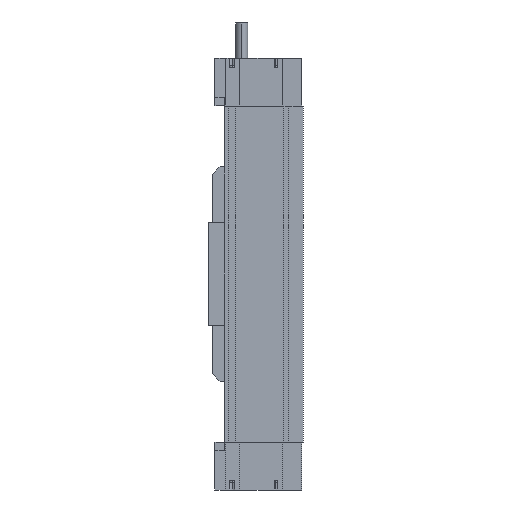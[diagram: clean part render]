
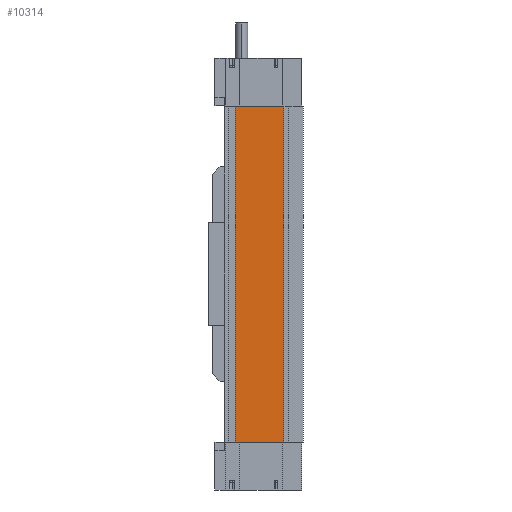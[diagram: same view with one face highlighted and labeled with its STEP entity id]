
A CAD part, left-side view. The second image highlights one B-rep face of the part: STEP entity #10314.
In plain terms, the highlighted planar face has unit normal (-1, 0, 0).
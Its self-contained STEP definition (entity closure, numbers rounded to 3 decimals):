
#1588 = DIRECTION ( 'NONE',  ( 0., -1., 0. ) ) ;
#1589 = VECTOR ( 'NONE', #1588, 1000. ) ;
#1590 = CARTESIAN_POINT ( 'NONE',  ( -32.5, -16.45, 280. ) ) ;
#1598 = CARTESIAN_POINT ( 'NONE',  ( -32.5, 24.15, 280. ) ) ;
#1601 = CARTESIAN_POINT ( 'NONE',  ( -32.5, -16.45, 280. ) ) ;
#1604 = LINE ( 'NONE', #1590, #1589 ) ;
#3732 = CARTESIAN_POINT ( 'NONE',  ( -32.5, -16.45, 0. ) ) ;
#3741 = CARTESIAN_POINT ( 'NONE',  ( -32.5, 24.15, 0. ) ) ;
#3765 = DIRECTION ( 'NONE',  ( 0., -1., 0. ) ) ;
#3766 = VECTOR ( 'NONE', #3765, 1000. ) ;
#3767 = CARTESIAN_POINT ( 'NONE',  ( -32.5, -16.45, 0. ) ) ;
#3769 = LINE ( 'NONE', #3767, #3766 ) ;
#4423 = DIRECTION ( 'NONE',  ( 0., 0., -1. ) ) ;
#4424 = VECTOR ( 'NONE', #4423, 1000. ) ;
#4429 = CARTESIAN_POINT ( 'NONE',  ( -32.5, -16.45, 280. ) ) ;
#4430 = LINE ( 'NONE', #4429, #4424 ) ;
#5256 = FACE_OUTER_BOUND ( 'NONE', #10269, .T. ) ;
#5268 = CARTESIAN_POINT ( 'NONE',  ( -32.5, -16.45, 280. ) ) ;
#5269 = DIRECTION ( 'NONE',  ( 0., 0., -1. ) ) ;
#5270 = VECTOR ( 'NONE', #5269, 1000. ) ;
#5273 = CARTESIAN_POINT ( 'NONE',  ( -32.5, 24.15, 280. ) ) ;
#5274 = LINE ( 'NONE', #5273, #5270 ) ;
#5293 = DIRECTION ( 'NONE',  ( 0., 0., -1. ) ) ;
#5294 = DIRECTION ( 'NONE',  ( 1., 0., 0. ) ) ;
#5297 = PLANE ( 'NONE',  #5305 ) ;
#5305 = AXIS2_PLACEMENT_3D ( 'NONE', #5268, #5294, #5293 ) ;
#8207 = VERTEX_POINT ( 'NONE', #1601 ) ;
#8208 = EDGE_CURVE ( 'NONE', #8216, #8207, #1604, .T. ) ;
#8216 = VERTEX_POINT ( 'NONE', #1598 ) ;
#9403 = VERTEX_POINT ( 'NONE', #3741 ) ;
#9408 = EDGE_CURVE ( 'NONE', #9403, #9411, #3769, .T. ) ;
#9411 = VERTEX_POINT ( 'NONE', #3732 ) ;
#9759 = EDGE_CURVE ( 'NONE', #8207, #9411, #4430, .T. ) ;
#9765 = ORIENTED_EDGE ( 'NONE', *, *, #9408, .T. ) ;
#10268 = ORIENTED_EDGE ( 'NONE', *, *, #9759, .F. ) ;
#10269 = EDGE_LOOP ( 'NONE', ( #9765, #10268, #10315, #10319 ) ) ;
#10295 = EDGE_CURVE ( 'NONE', #8216, #9403, #5274, .T. ) ;
#10314 = ADVANCED_FACE ( 'NONE', ( #5256 ), #5297, .F. ) ;
#10315 = ORIENTED_EDGE ( 'NONE', *, *, #8208, .F. ) ;
#10319 = ORIENTED_EDGE ( 'NONE', *, *, #10295, .T. ) ;
